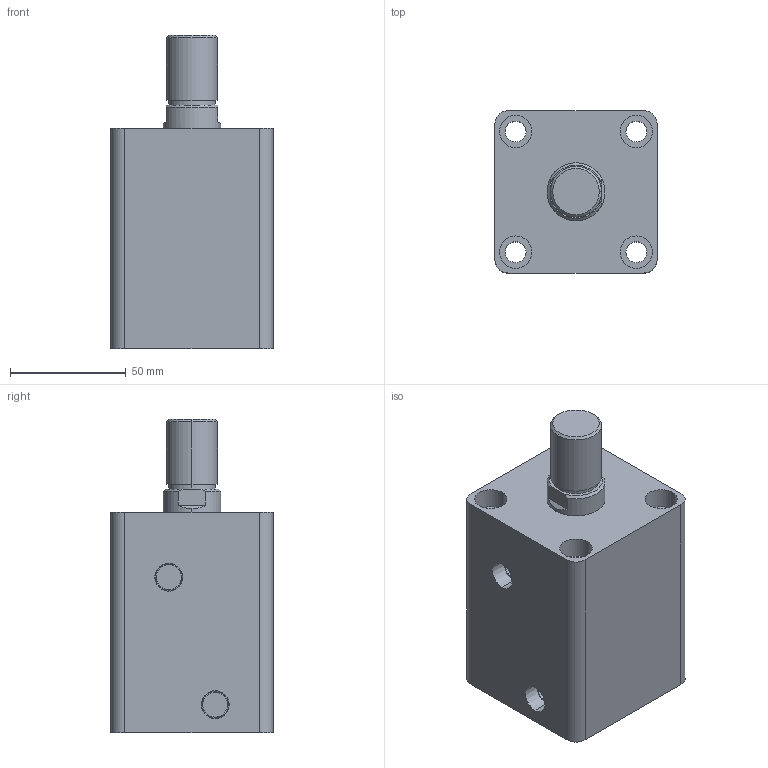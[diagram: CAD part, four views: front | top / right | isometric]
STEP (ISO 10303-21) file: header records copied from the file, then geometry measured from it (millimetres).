
FILE_DESCRIPTION (( 'STEP AP203' ), '1' );
FILE_NAME ('HTB-SD40-40W.STEP', '2019-10-07T06:51:07', ( '微软用户' ), ( '微软中国' ), 'SwSTEP 2.0', 'SolidWorks 2012', '' );
FILE_SCHEMA (( 'CONFIG_CONTROL_DESIGN' ));
Length unit declared in the file: millimetre
Products named in the file (3): HTB-SD40-40W; HTB-SD40-40掛极; HTB-SD40-40W活塞杆
Assembly tree (2 placements, depth 2):
  HTB-SD40-40W
    HTB-SD40-40掛极
    HTB-SD40-40W活塞杆
Bounding box: 70 x 70 x 135 mm (x, y, z)
Volume: 415238.4 mm3; surface area: 71207.9 mm2
Topology: 2 solids, 2 shells, 85 faces, 186 edges, 122 vertices
Faces by surface type: cylinder 44, plane 29, cone 8, torus 4
Entity records: 2709 total; most frequent: DIRECTION 466, CARTESIAN_POINT 426, ORIENTED_EDGE 372, AXIS2_PLACEMENT_3D 198, EDGE_CURVE 186, VERTEX_POINT 122, EDGE_LOOP 110, CIRCLE 108
